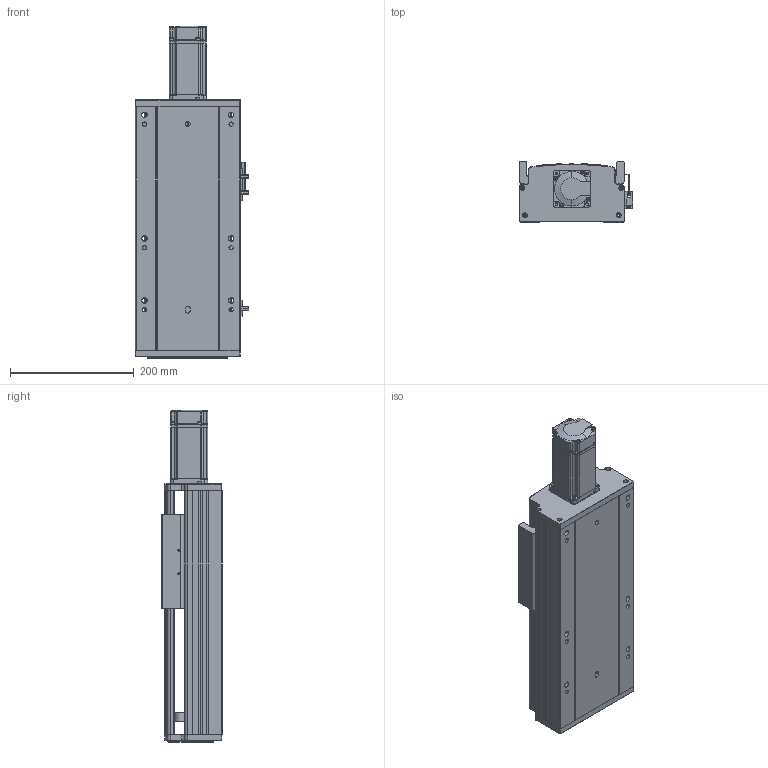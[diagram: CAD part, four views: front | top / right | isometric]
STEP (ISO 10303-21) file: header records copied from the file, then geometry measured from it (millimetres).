
FILE_DESCRIPTION (( 'STEP AP203' ), '1' );
FILE_NAME ('RY170Q-L2020-400-MK.SLDASM_0150.step', '2021-05-31T02:01:58', ( '盈信电脑' ), ( '东莞市道滘镇水果街19号' ), 'SwSTEP 2.0', 'SolidWorks 2016', '' );
FILE_SCHEMA (( 'CONFIG_CONTROL_DESIGN' ));
Length unit declared in the file: millimetre
Products named in the file (12): RY170綴裔啣; RY170Q-400倰第裔啣-MK_0150; 滅袉蝶18-10; RY170Q臏賑輸20佪裝蹟譫(FK15); 15; RY170ヶ醱裔啣; 侂狟400W侜督萇儂; 滅袉蝶18-15; RY170Q-L2020-400-MK.SLDASM_0150; RY170外置感应片(200共用）; RY170Q-400倰第菁釱-MK_0150; 覜茼ん672
Assembly tree (14 placements, depth 3):
  RY170Q-L2020-400-MK.SLDASM_0150
    RY170Q-400倰第菁釱-MK_0150
    RY170Q-400倰第裔啣-MK_0150
    RY170Q臏賑輸20佪裝蹟譫(FK15)
    侂狟400W侜督萇儂
      15
    RY170綴裔啣
    覜茼ん672  x3
    RY170外置感应片(200共用）
    RY170ヶ醱裔啣
    滅袉蝶18-15  x2
    滅袉蝶18-10
Bounding box: 183.7 x 97 x 536.5 mm (x, y, z)
Volume: 2668187 mm3; surface area: 788469.4 mm2
Topology: 13 solids, 13 shells, 2046 faces, 5755 edges, 3741 vertices
Faces by surface type: plane 1185, cylinder 699, cone 133, bspline 29
Entity records: 63242 total; most frequent: CARTESIAN_POINT 13455, ORIENTED_EDGE 10346, DIRECTION 9868, EDGE_CURVE 5173, VECTOR 3460, LINE 3460, VERTEX_POINT 3409, AXIS2_PLACEMENT_3D 3204
